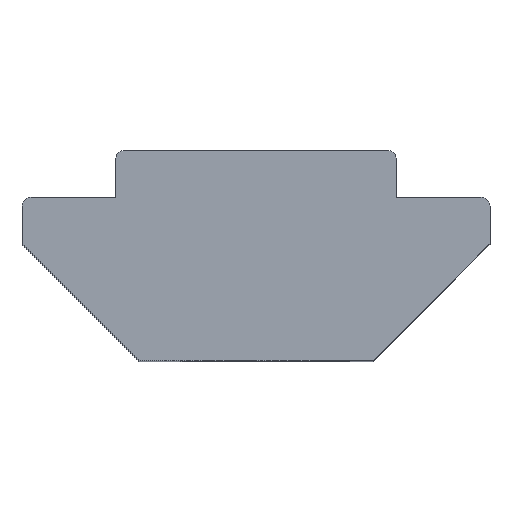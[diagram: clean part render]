
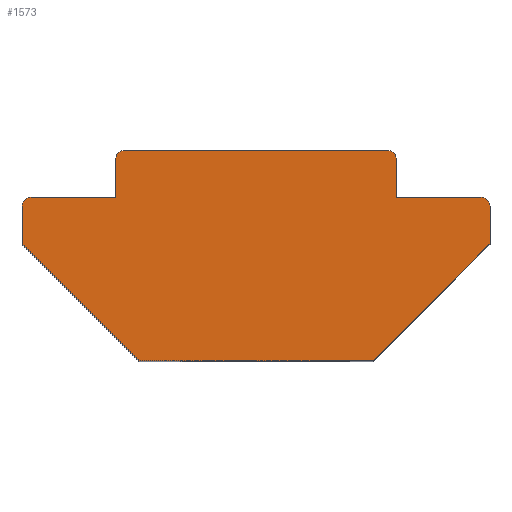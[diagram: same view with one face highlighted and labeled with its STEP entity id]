
A CAD part, top view. The second image highlights one B-rep face of the part: STEP entity #1573.
In plain terms, the highlighted planar face has unit normal (0, 0, 1).
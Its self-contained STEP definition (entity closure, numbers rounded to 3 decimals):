
#21 = LINE ( 'NONE', #309, #591 ) ;
#22 = VECTOR ( 'NONE', #1714, 1000. ) ;
#29 = CARTESIAN_POINT ( 'NONE',  ( -2.5, -4.5, 5. ) ) ;
#41 = CIRCLE ( 'NONE', #565, 0.2 ) ;
#49 = ORIENTED_EDGE ( 'NONE', *, *, #479, .T. ) ;
#54 = EDGE_CURVE ( 'NONE', #367, #445, #1551, .T. ) ;
#97 = ORIENTED_EDGE ( 'NONE', *, *, #1365, .T. ) ;
#105 = EDGE_CURVE ( 'NONE', #445, #986, #1691, .T. ) ;
#111 = DIRECTION ( 'NONE',  ( 0., -1., 0. ) ) ;
#125 = ORIENTED_EDGE ( 'NONE', *, *, #1925, .T. ) ;
#148 = CARTESIAN_POINT ( 'NONE',  ( 5., -1., 5. ) ) ;
#170 = EDGE_CURVE ( 'NONE', #714, #367, #1594, .T. ) ;
#185 = DIRECTION ( 'NONE',  ( -1., 0., 0. ) ) ;
#187 = CARTESIAN_POINT ( 'NONE',  ( -3., 0., 5. ) ) ;
#211 = DIRECTION ( 'NONE',  ( -1., 0., 0. ) ) ;
#294 = ORIENTED_EDGE ( 'NONE', *, *, #775, .T. ) ;
#299 = CARTESIAN_POINT ( 'NONE',  ( -5., -1.2, 5. ) ) ;
#309 = CARTESIAN_POINT ( 'NONE',  ( -5., -1., 5. ) ) ;
#316 = VERTEX_POINT ( 'NONE', #515 ) ;
#322 = DIRECTION ( 'NONE',  ( 0., 0., 1. ) ) ;
#340 = ORIENTED_EDGE ( 'NONE', *, *, #1890, .T. ) ;
#341 = DIRECTION ( 'NONE',  ( 0.707, 0.707, 0. ) ) ;
#353 = DIRECTION ( 'NONE',  ( 0., 0., 1. ) ) ;
#367 = VERTEX_POINT ( 'NONE', #1616 ) ;
#383 = CARTESIAN_POINT ( 'NONE',  ( -2.8, 0., 5. ) ) ;
#391 = VECTOR ( 'NONE', #451, 1000. ) ;
#392 = CARTESIAN_POINT ( 'NONE',  ( -3., -1., 5. ) ) ;
#401 = VERTEX_POINT ( 'NONE', #1762 ) ;
#417 = LINE ( 'NONE', #148, #391 ) ;
#427 = CARTESIAN_POINT ( 'NONE',  ( 0., 0., 5. ) ) ;
#445 = VERTEX_POINT ( 'NONE', #1299 ) ;
#451 = DIRECTION ( 'NONE',  ( 0., 1., 0. ) ) ;
#467 = CARTESIAN_POINT ( 'NONE',  ( -2.5, -4.5, 5. ) ) ;
#479 = EDGE_CURVE ( 'NONE', #1395, #316, #1284, .T. ) ;
#498 = VERTEX_POINT ( 'NONE', #852 ) ;
#515 = CARTESIAN_POINT ( 'NONE',  ( -3., -0.2, 5. ) ) ;
#516 = LINE ( 'NONE', #1432, #1423 ) ;
#519 = CARTESIAN_POINT ( 'NONE',  ( 2.5, -4.5, 5. ) ) ;
#536 = VECTOR ( 'NONE', #1382, 1000. ) ;
#546 = EDGE_LOOP ( 'NONE', ( #294, #97, #942, #1777, #1279, #340, #1543, #1711, #1607, #1512, #776, #631, #49, #125 ) ) ;
#554 = VERTEX_POINT ( 'NONE', #299 ) ;
#565 = AXIS2_PLACEMENT_3D ( 'NONE', #944, #322, #1074 ) ;
#591 = VECTOR ( 'NONE', #918, 1000. ) ;
#630 = AXIS2_PLACEMENT_3D ( 'NONE', #977, #1129, #1893 ) ;
#631 = ORIENTED_EDGE ( 'NONE', *, *, #1855, .T. ) ;
#648 = CARTESIAN_POINT ( 'NONE',  ( 5., -2., 5. ) ) ;
#652 = CARTESIAN_POINT ( 'NONE',  ( 3., 0., 5. ) ) ;
#710 = CARTESIAN_POINT ( 'NONE',  ( -2.8, -0.2, 5. ) ) ;
#714 = VERTEX_POINT ( 'NONE', #1364 ) ;
#734 = VECTOR ( 'NONE', #1809, 1000. ) ;
#760 = VECTOR ( 'NONE', #1273, 1000. ) ;
#762 = LINE ( 'NONE', #29, #536 ) ;
#775 = EDGE_CURVE ( 'NONE', #921, #1679, #21, .T. ) ;
#776 = ORIENTED_EDGE ( 'NONE', *, *, #105, .T. ) ;
#792 = AXIS2_PLACEMENT_3D ( 'NONE', #710, #1785, #1018 ) ;
#794 = VERTEX_POINT ( 'NONE', #467 ) ;
#842 = AXIS2_PLACEMENT_3D ( 'NONE', #1113, #353, #211 ) ;
#852 = CARTESIAN_POINT ( 'NONE',  ( 5., -2., 5. ) ) ;
#918 = DIRECTION ( 'NONE',  ( -1., 0., 0. ) ) ;
#921 = VERTEX_POINT ( 'NONE', #392 ) ;
#940 = CARTESIAN_POINT ( 'NONE',  ( -4.8, -1., 5. ) ) ;
#942 = ORIENTED_EDGE ( 'NONE', *, *, #1069, .T. ) ;
#944 = CARTESIAN_POINT ( 'NONE',  ( 4.8, -1.2, 5. ) ) ;
#977 = CARTESIAN_POINT ( 'NONE',  ( 2.8, -0.2, 5. ) ) ;
#986 = VERTEX_POINT ( 'NONE', #1467 ) ;
#1018 = DIRECTION ( 'NONE',  ( -1., 0., 0. ) ) ;
#1069 = EDGE_CURVE ( 'NONE', #554, #401, #516, .T. ) ;
#1074 = DIRECTION ( 'NONE',  ( -1., 0., 0. ) ) ;
#1097 = CARTESIAN_POINT ( 'NONE',  ( -3., -1., 5. ) ) ;
#1113 = CARTESIAN_POINT ( 'NONE',  ( -4.8, -1.2, 5. ) ) ;
#1129 = DIRECTION ( 'NONE',  ( 0., 0., 1. ) ) ;
#1167 = VERTEX_POINT ( 'NONE', #1660 ) ;
#1273 = DIRECTION ( 'NONE',  ( -1., 0., 0. ) ) ;
#1279 = ORIENTED_EDGE ( 'NONE', *, *, #1548, .T. ) ;
#1284 = CIRCLE ( 'NONE', #792, 0.2 ) ;
#1299 = CARTESIAN_POINT ( 'NONE',  ( 3., -0.2, 5. ) ) ;
#1344 = VECTOR ( 'NONE', #341, 1000. ) ;
#1364 = CARTESIAN_POINT ( 'NONE',  ( 4.8, -1., 5. ) ) ;
#1365 = EDGE_CURVE ( 'NONE', #1679, #554, #1873, .T. ) ;
#1382 = DIRECTION ( 'NONE',  ( 0.707, -0.707, 0. ) ) ;
#1395 = VERTEX_POINT ( 'NONE', #383 ) ;
#1403 = DIRECTION ( 'NONE',  ( 0., 1., 0. ) ) ;
#1412 = VERTEX_POINT ( 'NONE', #519 ) ;
#1423 = VECTOR ( 'NONE', #111, 1000. ) ;
#1424 = LINE ( 'NONE', #1822, #734 ) ;
#1432 = CARTESIAN_POINT ( 'NONE',  ( -5., -2., 5. ) ) ;
#1439 = AXIS2_PLACEMENT_3D ( 'NONE', #427, #1638, #1649 ) ;
#1467 = CARTESIAN_POINT ( 'NONE',  ( 2.8, 0., 5. ) ) ;
#1483 = FACE_OUTER_BOUND ( 'NONE', #546, .T. ) ;
#1485 = PLANE ( 'NONE',  #1439 ) ;
#1512 = ORIENTED_EDGE ( 'NONE', *, *, #54, .T. ) ;
#1515 = EDGE_CURVE ( 'NONE', #498, #1167, #417, .T. ) ;
#1543 = ORIENTED_EDGE ( 'NONE', *, *, #1515, .T. ) ;
#1548 = EDGE_CURVE ( 'NONE', #794, #1412, #1424, .T. ) ;
#1551 = LINE ( 'NONE', #652, #1662 ) ;
#1552 = LINE ( 'NONE', #648, #1344 ) ;
#1573 = ADVANCED_FACE ( 'NONE', ( #1483 ), #1485, .F. ) ;
#1576 = EDGE_CURVE ( 'NONE', #401, #794, #762, .T. ) ;
#1578 = CARTESIAN_POINT ( 'NONE',  ( 3., -1., 5. ) ) ;
#1594 = LINE ( 'NONE', #1578, #760 ) ;
#1607 = ORIENTED_EDGE ( 'NONE', *, *, #170, .T. ) ;
#1616 = CARTESIAN_POINT ( 'NONE',  ( 3., -1., 5. ) ) ;
#1629 = LINE ( 'NONE', #1097, #22 ) ;
#1638 = DIRECTION ( 'NONE',  ( 0., 0., -1. ) ) ;
#1649 = DIRECTION ( 'NONE',  ( -1., 0., 0. ) ) ;
#1660 = CARTESIAN_POINT ( 'NONE',  ( 5., -1.2, 5. ) ) ;
#1662 = VECTOR ( 'NONE', #1403, 1000. ) ;
#1679 = VERTEX_POINT ( 'NONE', #940 ) ;
#1691 = CIRCLE ( 'NONE', #630, 0.2 ) ;
#1693 = LINE ( 'NONE', #187, #1861 ) ;
#1704 = EDGE_CURVE ( 'NONE', #1167, #714, #41, .T. ) ;
#1711 = ORIENTED_EDGE ( 'NONE', *, *, #1704, .T. ) ;
#1714 = DIRECTION ( 'NONE',  ( 0., -1., 0. ) ) ;
#1762 = CARTESIAN_POINT ( 'NONE',  ( -5., -2., 5. ) ) ;
#1777 = ORIENTED_EDGE ( 'NONE', *, *, #1576, .T. ) ;
#1785 = DIRECTION ( 'NONE',  ( 0., 0., 1. ) ) ;
#1809 = DIRECTION ( 'NONE',  ( 1., 0., 0. ) ) ;
#1822 = CARTESIAN_POINT ( 'NONE',  ( 2.5, -4.5, 5. ) ) ;
#1855 = EDGE_CURVE ( 'NONE', #986, #1395, #1693, .T. ) ;
#1861 = VECTOR ( 'NONE', #185, 1000. ) ;
#1873 = CIRCLE ( 'NONE', #842, 0.2 ) ;
#1890 = EDGE_CURVE ( 'NONE', #1412, #498, #1552, .T. ) ;
#1893 = DIRECTION ( 'NONE',  ( -1., 0., 0. ) ) ;
#1925 = EDGE_CURVE ( 'NONE', #316, #921, #1629, .T. ) ;
